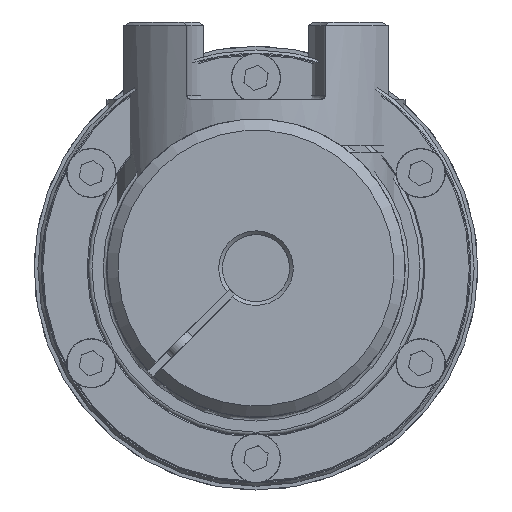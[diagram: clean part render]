
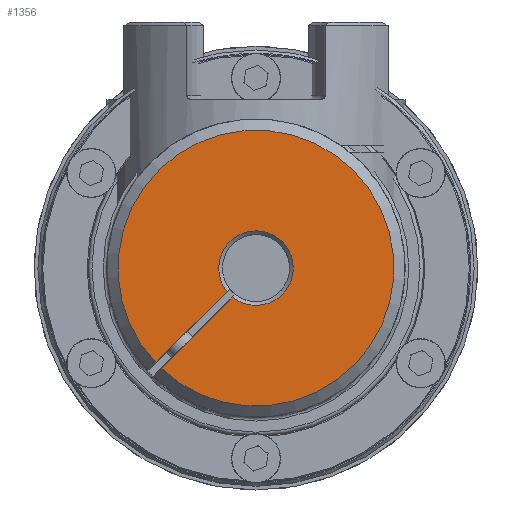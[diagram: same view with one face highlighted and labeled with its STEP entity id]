
A CAD part, left-side view. The second image highlights one B-rep face of the part: STEP entity #1356.
In plain terms, the highlighted planar face has unit normal (-1, 0, 0) as drawn and (0, 0, -1) by its records, which use the part's own axes.
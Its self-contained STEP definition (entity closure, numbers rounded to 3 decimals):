
#1356 = ADVANCED_FACE( '', ( #2654 ), #2655, .T. );
#2654 = FACE_OUTER_BOUND( '', #3748, .T. );
#2655 = PLANE( '', #3749 );
#3748 = EDGE_LOOP( '', ( #6336, #6337, #6338, #6339 ) );
#3749 = AXIS2_PLACEMENT_3D( '', #6340, #6341, #6342 );
#6336 = ORIENTED_EDGE( '', *, *, #7607, .F. );
#6337 = ORIENTED_EDGE( '', *, *, #7551, .T. );
#6338 = ORIENTED_EDGE( '', *, *, #7608, .T. );
#6339 = ORIENTED_EDGE( '', *, *, #7609, .T. );
#6340 = CARTESIAN_POINT( '', ( 0., 0., 0. ) );
#6341 = DIRECTION( '', ( 0., 0., -1. ) );
#6342 = DIRECTION( '', ( 0., -1., 0. ) );
#7551 = EDGE_CURVE( '', #8935, #8937, #8939, .T. );
#7607 = EDGE_CURVE( '', #8935, #9023, #9024, .F. );
#7608 = EDGE_CURVE( '', #8937, #9025, #9026, .T. );
#7609 = EDGE_CURVE( '', #9025, #9023, #9027, .F. );
#8935 = VERTEX_POINT( '', #11189 );
#8937 = VERTEX_POINT( '', #11194 );
#8939 = CIRCLE( '', #11199, 37. );
#9023 = VERTEX_POINT( '', #11332 );
#9024 = LINE( '', #11333, #11334 );
#9025 = VERTEX_POINT( '', #11335 );
#9026 = LINE( '', #11336, #11337 );
#9027 = CIRCLE( '', #11338, 10. );
#11189 = CARTESIAN_POINT( '', ( -36.986, 1., 0. ) );
#11194 = CARTESIAN_POINT( '', ( -36.986, -1., 0. ) );
#11199 = AXIS2_PLACEMENT_3D( '', #12717, #12718, #12719 );
#11332 = CARTESIAN_POINT( '', ( -9.95, 1., 0. ) );
#11333 = CARTESIAN_POINT( '', ( -40., 1., 0. ) );
#11334 = VECTOR( '', #12837, 1000. );
#11335 = CARTESIAN_POINT( '', ( -9.95, -1., 0. ) );
#11336 = CARTESIAN_POINT( '', ( 0., -1., 0. ) );
#11337 = VECTOR( '', #12838, 1000. );
#11338 = AXIS2_PLACEMENT_3D( '', #12839, #12840, #12841 );
#12717 = CARTESIAN_POINT( '', ( 0., 0., 0. ) );
#12718 = DIRECTION( '', ( 0., 0., -1. ) );
#12719 = DIRECTION( '', ( -1., 0., 0. ) );
#12837 = DIRECTION( '', ( -1., 0., 0. ) );
#12838 = DIRECTION( '', ( 1., 0., 0. ) );
#12839 = CARTESIAN_POINT( '', ( 0., 0., 0. ) );
#12840 = DIRECTION( '', ( 0., 0., -1. ) );
#12841 = DIRECTION( '', ( -1., 0., 0. ) );
